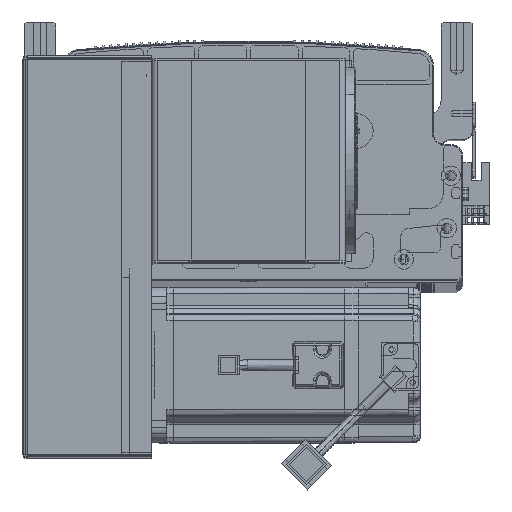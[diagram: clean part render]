
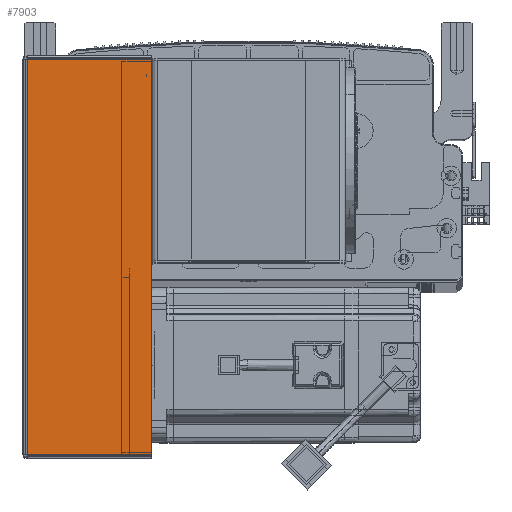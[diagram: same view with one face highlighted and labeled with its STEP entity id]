
A CAD part, top view. The second image highlights one B-rep face of the part: STEP entity #7903.
In plain terms, the highlighted planar face has unit normal (0, 0, 1) as drawn and (0, -1, 0) by its records, which use the part's own axes.
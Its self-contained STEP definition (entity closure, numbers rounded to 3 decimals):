
#7794 = VERTEX_POINT ( 'NONE', #64006 ) ;
#7903 = ADVANCED_FACE ( 'NONE', ( #44736 ), #74563, .F. ) ;
#10216 = CARTESIAN_POINT ( 'NONE',  ( 64.5, -1.5, -0.707 ) ) ;
#15635 = LINE ( 'NONE', #25226, #33495 ) ;
#19298 = ORIENTED_EDGE ( 'NONE', *, *, #61051, .T. ) ;
#21344 = CARTESIAN_POINT ( 'NONE',  ( 0., -1.5, 0. ) ) ;
#22945 = VECTOR ( 'NONE', #39270, 1000. ) ;
#25226 = CARTESIAN_POINT ( 'NONE',  ( 64.5, -1.5, 0. ) ) ;
#25552 = DIRECTION ( 'NONE',  ( 0., 0., 1. ) ) ;
#29063 = EDGE_CURVE ( 'NONE', #7794, #70063, #81950, .T. ) ;
#29317 = DIRECTION ( 'NONE',  ( -1., 0., 0. ) ) ;
#31977 = EDGE_LOOP ( 'NONE', ( #52349, #35984, #19298, #33343 ) ) ;
#33343 = ORIENTED_EDGE ( 'NONE', *, *, #29063, .F. ) ;
#33495 = VECTOR ( 'NONE', #25552, 1000. ) ;
#34486 = DIRECTION ( 'NONE',  ( 1., 0., 0. ) ) ;
#35984 = ORIENTED_EDGE ( 'NONE', *, *, #59492, .T. ) ;
#39270 = DIRECTION ( 'NONE',  ( 1., 0., 0. ) ) ;
#40952 = EDGE_CURVE ( 'NONE', #92198, #7794, #51575, .T. ) ;
#44736 = FACE_OUTER_BOUND ( 'NONE', #31977, .T. ) ;
#51575 = LINE ( 'NONE', #56605, #74001 ) ;
#51993 = VERTEX_POINT ( 'NONE', #93308 ) ;
#52349 = ORIENTED_EDGE ( 'NONE', *, *, #40952, .F. ) ;
#53449 = CARTESIAN_POINT ( 'NONE',  ( 0., -1.5, -203.293 ) ) ;
#55269 = AXIS2_PLACEMENT_3D ( 'NONE', #21344, #59344, #29317 ) ;
#56605 = CARTESIAN_POINT ( 'NONE',  ( 0.737, -1.5, 0. ) ) ;
#56894 = CARTESIAN_POINT ( 'NONE',  ( 0., -1.5, -0.707 ) ) ;
#57049 = VECTOR ( 'NONE', #34486, 1000. ) ;
#59344 = DIRECTION ( 'NONE',  ( 0., 1., 0. ) ) ;
#59492 = EDGE_CURVE ( 'NONE', #92198, #51993, #79793, .T. ) ;
#61051 = EDGE_CURVE ( 'NONE', #51993, #70063, #15635, .T. ) ;
#64006 = CARTESIAN_POINT ( 'NONE',  ( 0.737, -1.5, -0.707 ) ) ;
#70063 = VERTEX_POINT ( 'NONE', #10216 ) ;
#71130 = DIRECTION ( 'NONE',  ( 0., 0., 1. ) ) ;
#74001 = VECTOR ( 'NONE', #71130, 1000. ) ;
#74563 = PLANE ( 'NONE',  #55269 ) ;
#79793 = LINE ( 'NONE', #53449, #22945 ) ;
#81950 = LINE ( 'NONE', #56894, #57049 ) ;
#87815 = CARTESIAN_POINT ( 'NONE',  ( 0.737, -1.5, -203.293 ) ) ;
#92198 = VERTEX_POINT ( 'NONE', #87815 ) ;
#93308 = CARTESIAN_POINT ( 'NONE',  ( 64.5, -1.5, -203.293 ) ) ;
